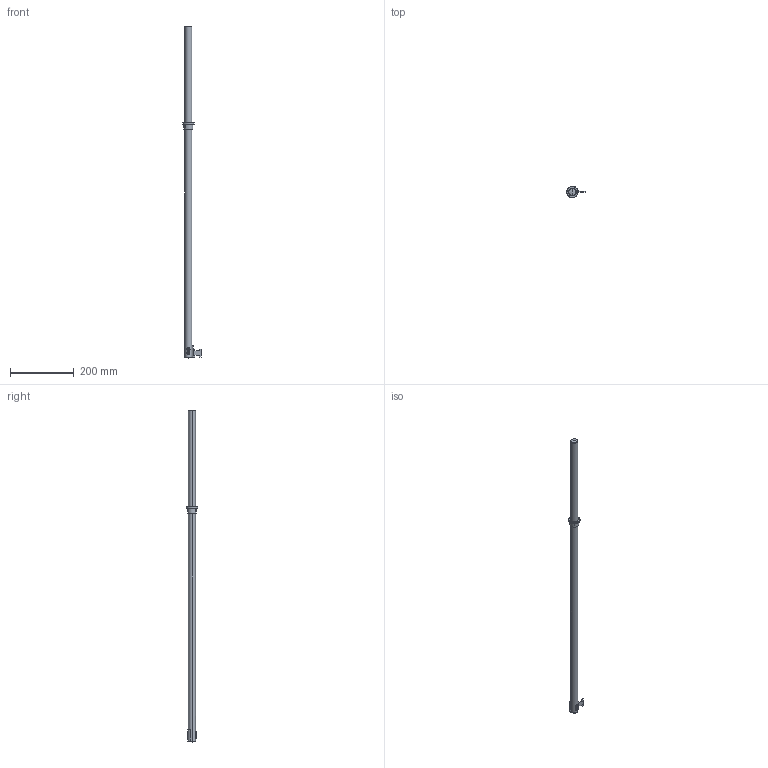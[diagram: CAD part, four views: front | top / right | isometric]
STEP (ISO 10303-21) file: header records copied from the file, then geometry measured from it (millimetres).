
FILE_DESCRIPTION (( 'STEP AP203' ), '1' );
FILE_NAME ('ØÎ-1-1041.STEP', '2016-05-30T07:22:06', ( 'user' ), ( '' ), 'SwSTEP 2.0', 'SolidWorks 2010', '' );
FILE_SCHEMA (( 'CONFIG_CONTROL_DESIGN' ));
Length unit declared in the file: millimetre
Products named in the file (1): 媓-1-1041
Bounding box: 58.52 x 35.98 x 1041 mm (x, y, z)
Surface area: 80180.7 mm2 (no closed solid volume)
Topology: 0 solids, 13 shells, 74 faces, 194 edges, 132 vertices
Faces by surface type: cylinder 33, plane 25, cone 6, bspline 4, sphere 4, torus 2
Entity records: 2923 total; most frequent: CARTESIAN_POINT 1001, DIRECTION 410, ORIENTED_EDGE 332, EDGE_CURVE 194, AXIS2_PLACEMENT_3D 165, VERTEX_POINT 132, CIRCLE 94, EDGE_LOOP 87
